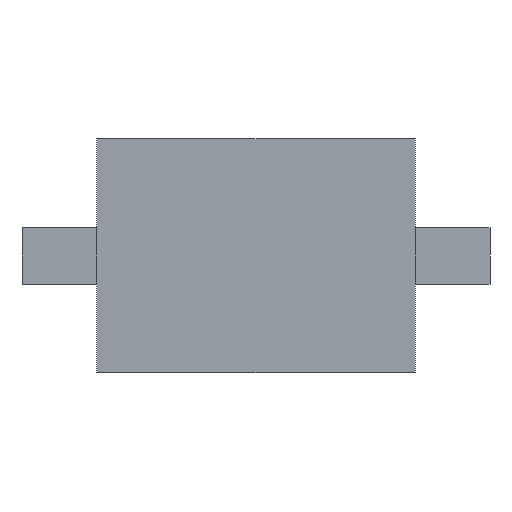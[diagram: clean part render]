
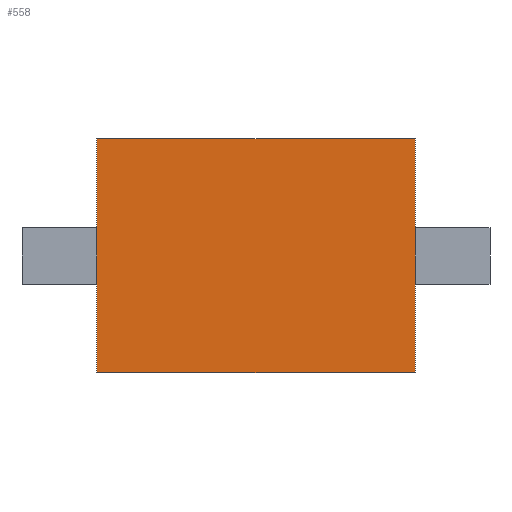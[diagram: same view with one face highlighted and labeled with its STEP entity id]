
A CAD part, front view. The second image highlights one B-rep face of the part: STEP entity #558.
In plain terms, the highlighted planar face has unit normal (0, -1, 0).
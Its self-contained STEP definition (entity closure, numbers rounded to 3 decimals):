
#425 = CARTESIAN_POINT ( 'NONE',  ( -0.85, 0., 0.625 ) ) ;
#426 = VERTEX_POINT ( 'NONE', #425 ) ;
#441 = CARTESIAN_POINT ( 'NONE',  ( -0.85, 0., -0.625 ) ) ;
#442 = VERTEX_POINT ( 'NONE', #441 ) ;
#449 = CARTESIAN_POINT ( 'NONE',  ( -0.85, 0., 0.625 ) ) ;
#450 = DIRECTION ( 'NONE',  ( 0., 0., -1. ) ) ;
#451 = VECTOR ( 'NONE', #450, 1000. ) ;
#452 = LINE ( 'NONE', #449, #451 ) ;
#453 = EDGE_CURVE ( 'NONE', #426, #442, #452, .T. ) ;
#465 = CARTESIAN_POINT ( 'NONE',  ( 0.85, 0., 0.625 ) ) ;
#466 = VERTEX_POINT ( 'NONE', #465 ) ;
#480 = CARTESIAN_POINT ( 'NONE',  ( -0.85, 0., 0.625 ) ) ;
#481 = DIRECTION ( 'NONE',  ( 1., 0., 0. ) ) ;
#482 = VECTOR ( 'NONE', #481, 1000. ) ;
#483 = LINE ( 'NONE', #480, #482 ) ;
#484 = EDGE_CURVE ( 'NONE', #426, #466, #483, .T. ) ;
#496 = CARTESIAN_POINT ( 'NONE',  ( 0.85, 0., -0.625 ) ) ;
#497 = VERTEX_POINT ( 'NONE', #496 ) ;
#511 = CARTESIAN_POINT ( 'NONE',  ( 0.85, 0., 0.625 ) ) ;
#512 = DIRECTION ( 'NONE',  ( 0., 0., -1. ) ) ;
#513 = VECTOR ( 'NONE', #512, 1000. ) ;
#514 = LINE ( 'NONE', #511, #513 ) ;
#515 = EDGE_CURVE ( 'NONE', #466, #497, #514, .T. ) ;
#533 = CARTESIAN_POINT ( 'NONE',  ( -0.85, 0., -0.625 ) ) ;
#534 = DIRECTION ( 'NONE',  ( 1., 0., 0. ) ) ;
#535 = VECTOR ( 'NONE', #534, 1000. ) ;
#536 = LINE ( 'NONE', #533, #535 ) ;
#537 = EDGE_CURVE ( 'NONE', #442, #497, #536, .T. ) ;
#547 = ORIENTED_EDGE ( 'NONE', *, *, #453, .T. ) ;
#548 = ORIENTED_EDGE ( 'NONE', *, *, #537, .T. ) ;
#549 = ORIENTED_EDGE ( 'NONE', *, *, #515, .F. ) ;
#550 = ORIENTED_EDGE ( 'NONE', *, *, #484, .F. ) ;
#551 = EDGE_LOOP ( 'NONE', ( #547, #548, #549, #550 ) ) ;
#552 = FACE_OUTER_BOUND ( 'NONE', #551, .T. ) ;
#553 = CARTESIAN_POINT ( 'NONE',  ( 0., 0., 0. ) ) ;
#554 = DIRECTION ( 'NONE',  ( 0., -1., 0. ) ) ;
#555 = DIRECTION ( 'NONE',  ( 0., 0., -1. ) ) ;
#556 = AXIS2_PLACEMENT_3D ( 'NONE', #553, #554, #555 ) ;
#557 = PLANE ( 'NONE', #556 ) ;
#558 = ADVANCED_FACE ( 'NONE', ( #552 ), #557, .T. ) ;
